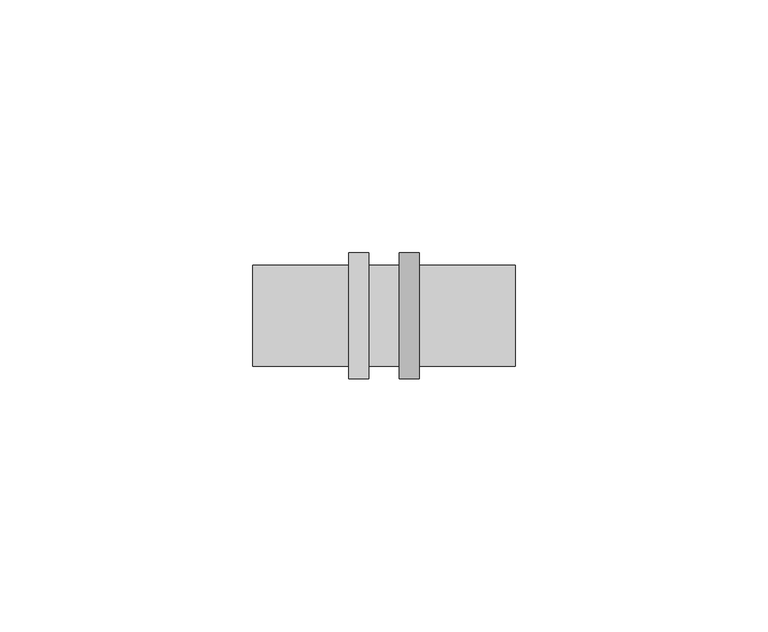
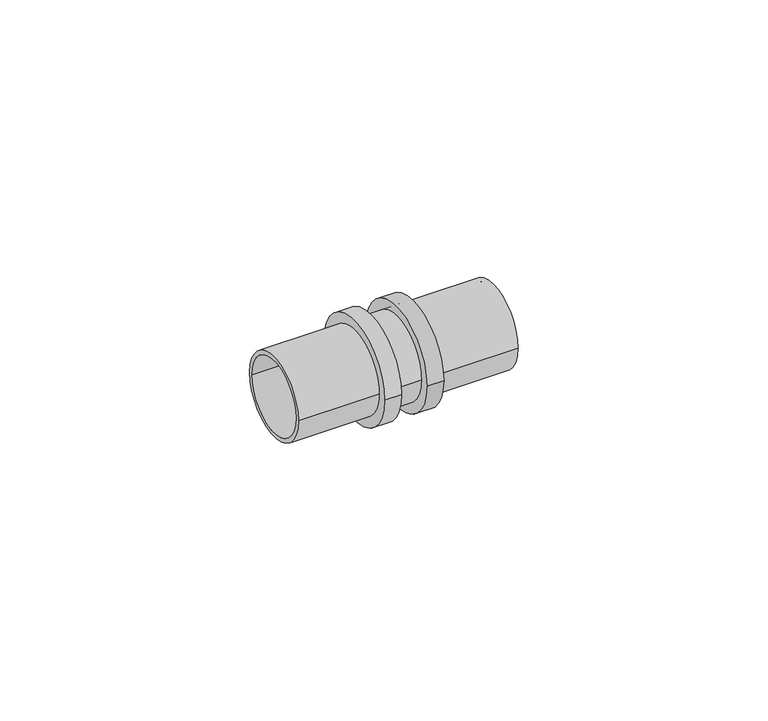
"""IFC4 building model written with IfcOpenShell, lengths in millimetres: pipe fitting geometry, БИР ПЕКС_НПР_Муфта прямая : Муфта соединительная прямая."""

import ifcopenshell
import ifcopenshell.guid

model = None  # the IFC model being written
_history = None  # IfcOwnerHistory: only IFC2X3 demands one
_inside = {}  # id of a spatial element -> (the spatial element, [elements in it])
_under = {}  # id of a project, library or spatial element -> (it, [spatial elements below it])
_declared = {}  # id of a project -> (the project, [libraries it declares])
_typed = {}  # id of a type object -> (the type object, [elements of that type])
_made_of = {}  # id of a material, layer set ... -> (it, [elements and type objects made of it])


def new_model(schema):
    """Start an empty IFC model of exactly this schema.

    Asked for "IFC4X3", IfcOpenShell would pick the latest addendum, in which some entities
    have other attributes; the version numbers below select the first issue.
    IFC2X3 requires an IfcOwnerHistory on every rooted entity: one is made here for all.
    """
    global model, _history
    if schema == "IFC4X3":
        model = ifcopenshell.file(schema_version=(4, 3, 0, 0))
    else:
        model = ifcopenshell.file(schema=schema)
    _inside.clear()
    _under.clear()
    _declared.clear()
    _typed.clear()
    _made_of.clear()
    _history = None
    if model.schema == "IFC2X3":
        org = make("IfcOrganization", Name="unknown")
        user = make(
            "IfcPersonAndOrganization",
            ThePerson=make("IfcPerson", FamilyName="unknown"),
            TheOrganization=org,
        )
        app = make(
            "IfcApplication",
            ApplicationDeveloper=org,
            Version="unknown",
            ApplicationFullName="unknown",
            ApplicationIdentifier="unknown",
        )
        _history = make(
            "IfcOwnerHistory",
            OwningUser=user,
            OwningApplication=app,
            ChangeAction="ADDED",
            CreationDate=0,
        )
    return model


def make(cls, **values):
    """One entity of the class cls with the attributes given. An attribute that is None is left unset."""
    return model.create_entity(
        cls, **{name: value for name, value in values.items() if value is not None}
    )


def rooted(cls, **values):
    """An entity with a GlobalId (a new one), such as an element, a storey or a relation."""
    return make(cls, GlobalId=ifcopenshell.guid.new(), OwnerHistory=_history, **values)


def si_unit(unit_type, name, prefix=None):
    """IfcSIUnit, for example si_unit("LENGTHUNIT", "METRE", prefix="MILLI")."""
    return make("IfcSIUnit", UnitType=unit_type, Prefix=prefix, Name=name)


def assignment(units):
    """IfcUnitAssignment: the units of a project."""
    return None if units is None else make("IfcUnitAssignment", Units=units)


def point(xyz):
    """IfcCartesianPoint."""
    return None if xyz is None else make("IfcCartesianPoint", Coordinates=xyz)


def direction(xyz):
    """IfcDirection."""
    return None if xyz is None else make("IfcDirection", DirectionRatios=xyz)


def frame(location, z_axis=None, x_axis=None):
    """IfcAxis2Placement3D, a coordinate frame: its origin and axes. An axis left out is left unset."""
    return make(
        "IfcAxis2Placement3D",
        Location=point(location),
        Axis=direction(z_axis),
        RefDirection=direction(x_axis),
    )


def frame_2d(location, x_axis=None):
    """IfcAxis2Placement2D, a coordinate frame in the plane: its origin and x axis."""
    return make(
        "IfcAxis2Placement2D", Location=point(location), RefDirection=direction(x_axis)
    )


def origin():
    """The frame at (0, 0, 0) with its axes left unset."""
    return frame((0.0, 0.0, 0.0))


def origin_2d():
    """The frame at (0, 0) in the plane with its x axis left unset."""
    return frame_2d((0.0, 0.0))


def place(relative_to, where):
    """IfcLocalPlacement: puts the frame where relative to a parent placement (None: the world)."""
    return make(
        "IfcLocalPlacement", PlacementRelTo=relative_to, RelativePlacement=where
    )


def context(
    kind, dimensions, precision=None, world=None, true_north=None, identifier=None
):
    """IfcGeometricRepresentationContext, for example the 3D "Model" context."""
    return make(
        "IfcGeometricRepresentationContext",
        ContextIdentifier=identifier,
        ContextType=kind,
        CoordinateSpaceDimension=dimensions,
        Precision=precision,
        WorldCoordinateSystem=world,
        TrueNorth=true_north,
    )


def project(units=None, contexts=None):
    """IfcProject with its units and contexts."""
    return rooted(
        "IfcProject",
        Name="project",
        RepresentationContexts=contexts,
        UnitsInContext=assignment(units),
    )


def spatial(cls, under=None, at=None, **own):
    """A site, building, storey or space (cls), placed at a placement, below another one or the project."""
    s = rooted(cls, ObjectPlacement=at, **own)
    if under is not None:
        _under.setdefault(under.id(), (under, []))[1].append(s)
    return s


def circle_curve(where, radius):
    """IfcCircle in the frame where."""
    return make("IfcCircle", Position=where, Radius=radius)


def trimmed(basis, trim1, trim2, sense, master):
    """IfcTrimmedCurve: the piece of a basis curve between two trims."""
    return make(
        "IfcTrimmedCurve",
        BasisCurve=basis,
        Trim1=trim1,
        Trim2=trim2,
        SenseAgreement=sense,
        MasterRepresentation=master,
    )


def segment(curve, same_sense, transition):
    """IfcCompositeCurveSegment."""
    return make(
        "IfcCompositeCurveSegment",
        Transition=transition,
        SameSense=same_sense,
        ParentCurve=curve,
    )


def composite_curve(segments, self_intersect=None):
    """IfcCompositeCurve: segments joined end to end."""
    return make("IfcCompositeCurve", Segments=segments, SelfIntersect=self_intersect)


def outline(outer, holes=None, kind="AREA"):
    """IfcArbitraryClosedProfileDef: a profile drawn as a closed curve; with holes, ...WithVoids."""
    if holes is None:
        return make("IfcArbitraryClosedProfileDef", ProfileType=kind, OuterCurve=outer)
    return make(
        "IfcArbitraryProfileDefWithVoids",
        ProfileType=kind,
        OuterCurve=outer,
        InnerCurves=holes,
    )


def extrude(swept, where, along, depth):
    """IfcExtrudedAreaSolid: the profile swept, set in the frame where, extruded along a direction by depth."""
    return make(
        "IfcExtrudedAreaSolid",
        SweptArea=swept,
        Position=where,
        ExtrudedDirection=direction(along),
        Depth=depth,
    )


def shape(context_of_items, identifier, shape_type, items):
    """IfcShapeRepresentation: the items that make up one representation, for example the "Body"."""
    return make(
        "IfcShapeRepresentation",
        ContextOfItems=context_of_items,
        RepresentationIdentifier=identifier,
        RepresentationType=shape_type,
        Items=items,
    )


def source(mapping_origin, context_of_items, identifier, shape_type, items):
    """IfcRepresentationMap: a shape defined once, which mapped items show again and again."""
    return make(
        "IfcRepresentationMap",
        MappingOrigin=mapping_origin,
        MappedRepresentation=shape(context_of_items, identifier, shape_type, items),
    )


def transform(
    local_origin,
    x_axis=None,
    y_axis=None,
    z_axis=None,
    scale=None,
    scale2=None,
    scale3=None,
    uniform=True,
):
    """IfcCartesianTransformationOperator3D, or its non-uniform kind. x_axis, y_axis, z_axis: its Axis1, 2, 3."""
    if uniform:
        return make(
            "IfcCartesianTransformationOperator3D",
            Axis1=direction(x_axis),
            Axis2=direction(y_axis),
            LocalOrigin=point(local_origin),
            Scale=scale,
            Axis3=direction(z_axis),
        )
    return make(
        "IfcCartesianTransformationOperator3DnonUniform",
        Axis1=direction(x_axis),
        Axis2=direction(y_axis),
        LocalOrigin=point(local_origin),
        Scale=scale,
        Axis3=direction(z_axis),
        Scale2=scale2,
        Scale3=scale3,
    )


def mapped(mapping_source, mapping_target):
    """IfcMappedItem: shows the shape of a source again, moved by a transform."""
    return make(
        "IfcMappedItem", MappingSource=mapping_source, MappingTarget=mapping_target
    )


def made_of(thing, what):
    """Note that an element or type object is made of a material, layer set ...; save() writes the relation."""
    if what is not None:
        _made_of.setdefault(what.id(), (what, []))[1].append(thing)
    return thing


def element(
    cls,
    number,
    at=None,
    inside=None,
    cuts=None,
    type_object=None,
    material=None,
    context=None,
    identifier="Body",
    shape_type=None,
    held_by="IfcProductDefinitionShape",
    body=None,
    shapes=None,
    **own,
):
    """One element of the class cls, such as IfcWall. Its Tag is "e" and its number.

    at: its placement. inside: the storey or other place that contains it. cuts: it is an
    opening in that element (IfcRelVoidsElement). A single representation is given by context,
    identifier, shape_type and body (its items); several are given by shapes. held_by: the class
    of the entity that holds the representations. save() writes the other relations.
    """
    e = rooted(cls, Tag="e%d" % number, ObjectPlacement=at, **own)
    if body is not None:
        shapes = [shape(context, identifier, shape_type, body)]
    if shapes is not None:
        e.Representation = make(held_by, Representations=shapes)
    if inside is not None:
        _inside.setdefault(inside.id(), (inside, []))[1].append(e)
    if cuts is not None:
        rooted(
            "IfcRelVoidsElement", RelatingBuildingElement=cuts, RelatedOpeningElement=e
        )
    if type_object is not None:
        _typed.setdefault(type_object.id(), (type_object, []))[1].append(e)
    return made_of(e, material)


def aggregate(whole, parts):
    """IfcRelAggregates: a whole, such as a stair, and the parts it consists of."""
    return rooted("IfcRelAggregates", RelatingObject=whole, RelatedObjects=parts)


def save(model, path):
    """Write the relations noted so far, then the file.

    IfcRelAggregates (storeys below a building ...), IfcRelContainedInSpatialStructure (elements
    in a storey), IfcRelDefinesByType, IfcRelAssociatesMaterial and IfcRelDeclares: one each for
    every whole, place, type object, material and project.
    """
    for whole, parts in _under.values():
        aggregate(whole, parts)
    for where, things in _inside.values():
        rooted(
            "IfcRelContainedInSpatialStructure",
            RelatedElements=things,
            RelatingStructure=where,
        )
    for kind, things in _typed.values():
        rooted("IfcRelDefinesByType", RelatedObjects=things, RelatingType=kind)
    for what, things in _made_of.values():
        rooted("IfcRelAssociatesMaterial", RelatedObjects=things, RelatingMaterial=what)
    for by, libraries in _declared.values():
        rooted("IfcRelDeclares", RelatingContext=by, RelatedDefinitions=libraries)
    model.write(path)


def pipe_fitting_3d0b1b38(model_context):
    return source(origin(), model_context, "Body", "SweptSolid", [
        extrude(outline(composite_curve([segment(trimmed(circle_curve(origin_2d(), 10.0), [point((-10.0, 0.0))], [point((10.0, 0.0))], False, "CARTESIAN"), True, "CONTINUOUS"), segment(trimmed(circle_curve(origin_2d(), 10.0), [point((10.0, 0.0))], [point((-10.0, 0.0))], False, "CARTESIAN"), True, "CONTINUOUS")], self_intersect=False), holes=[composite_curve([segment(trimmed(circle_curve(origin_2d(), 9.0), [point((-9.0, 0.0))], [point((9.0, 0.0))], True, "CARTESIAN"), True, "CONTINUOUS"), segment(trimmed(circle_curve(origin_2d(), 9.0), [point((9.0, 0.0))], [point((-9.0, 0.0))], True, "CARTESIAN"), True, "CONTINUOUS")], self_intersect=False)]), frame((-26.0, 0.0, 0.0), z_axis=(1.0, 0.0, 0.0), x_axis=(0.0, 1.0, 0.0)), (0.0, 0.0, 1.0), 52.0),
        extrude(outline(composite_curve([segment(trimmed(circle_curve(origin_2d(), 12.5), [point((-12.5, 0.0))], [point((12.5, 0.0))], False, "CARTESIAN"), True, "CONTINUOUS"), segment(trimmed(circle_curve(origin_2d(), 12.5), [point((12.5, 0.0))], [point((-12.5, 0.0))], False, "CARTESIAN"), True, "CONTINUOUS")], self_intersect=False), holes=[composite_curve([segment(trimmed(circle_curve(origin_2d(), 10.0), [point((-10.0, 0.0))], [point((10.0, 0.0))], True, "CARTESIAN"), True, "CONTINUOUS"), segment(trimmed(circle_curve(origin_2d(), 10.0), [point((10.0, 0.0))], [point((-10.0, 0.0))], True, "CARTESIAN"), True, "CONTINUOUS")], self_intersect=False)]), frame((3.0, 0.0, 0.0), z_axis=(1.0, 0.0, 0.0), x_axis=(0.0, 1.0, 0.0)), (0.0, 0.0, 1.0), 4.0),
        extrude(outline(composite_curve([segment(trimmed(circle_curve(origin_2d(), 12.5), [point((-12.5, 0.0))], [point((12.5, 0.0))], False, "CARTESIAN"), True, "CONTINUOUS"), segment(trimmed(circle_curve(origin_2d(), 12.5), [point((12.5, 0.0))], [point((-12.5, 0.0))], False, "CARTESIAN"), True, "CONTINUOUS")], self_intersect=False), holes=[composite_curve([segment(trimmed(circle_curve(origin_2d(), 10.0), [point((-10.0, 0.0))], [point((10.0, 0.0))], True, "CARTESIAN"), True, "CONTINUOUS"), segment(trimmed(circle_curve(origin_2d(), 10.0), [point((10.0, 0.0))], [point((-10.0, 0.0))], True, "CARTESIAN"), True, "CONTINUOUS")], self_intersect=False)]), frame((-7.0, 0.0, 0.0), z_axis=(1.0, 0.0, 0.0), x_axis=(0.0, 1.0, 0.0)), (0.0, 0.0, 1.0), 4.0),
        extrude(outline(composite_curve([segment(trimmed(circle_curve(origin_2d(), 10.0), [point((-10.0, 0.0))], [point((10.0, 0.0))], False, "CARTESIAN"), True, "CONTINUOUS"), segment(trimmed(circle_curve(origin_2d(), 10.0), [point((10.0, 0.0))], [point((-10.0, 0.0))], False, "CARTESIAN"), True, "CONTINUOUS")], self_intersect=False)), frame((-7.0, 0.0, 0.0), z_axis=(1.0, 0.0, 0.0), x_axis=(0.0, 1.0, 0.0)), (0.0, 0.0, 1.0), 14.0),
    ])


if __name__ == "__main__":
    model = new_model("IFC4")
    model_context = context("Model", 3, world=origin())
    ifc_project = project(units=[si_unit("LENGTHUNIT", "METRE", prefix="MILLI")], contexts=[model_context])
    site = spatial("IfcSite", under=ifc_project)
    building = spatial("IfcBuilding", under=site)
    placement = place(None, origin())
    pipe_fitting_shape = pipe_fitting_3d0b1b38(model_context)
    element("IfcPipeFitting", 1, ObjectType="БИР ПЕКС_НПР_Муфта прямая : Муфта соединительная прямая", at=placement, inside=building, context=model_context, shape_type="MappedRepresentation", body=[
        mapped(pipe_fitting_shape, transform((0.0, 0.0, 0.0), x_axis=(1.0, 0.0, 0.0), y_axis=(0.0, 1.0, 0.0), z_axis=(0.0, 0.0, 1.0))),
    ])
    save(model, "model.ifc")
